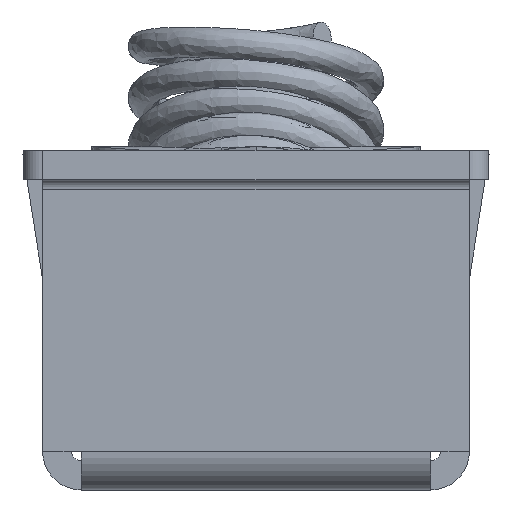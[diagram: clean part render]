
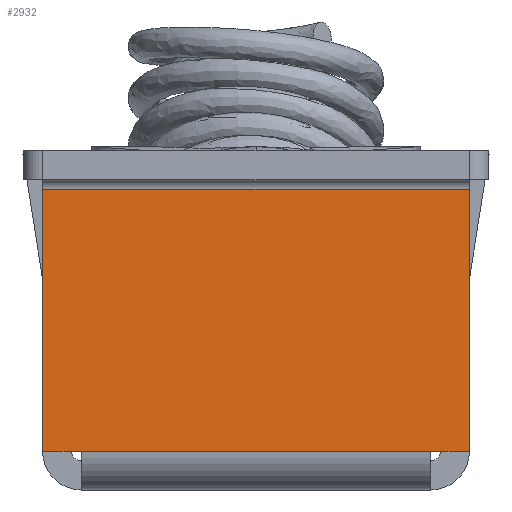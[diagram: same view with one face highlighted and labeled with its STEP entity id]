
A CAD part, left-side view. The second image highlights one B-rep face of the part: STEP entity #2932.
In plain terms, the highlighted planar face has unit normal (-1, 0, 0).
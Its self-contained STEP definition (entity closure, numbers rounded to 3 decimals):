
#1516=CARTESIAN_POINT('',(-129.,11.,2.));
#1517=VERTEX_POINT('',#1516);
#1524=CARTESIAN_POINT('',(-129.,11.,15.5));
#1525=VERTEX_POINT('',#1524);
#1526=CARTESIAN_POINT('',(-129.,11.,2.));
#1527=DIRECTION('',(0.0,0.0,1.0));
#1528=VECTOR('',#1527,13.5);
#1529=LINE('',#1526,#1528);
#1530=EDGE_CURVE('',#1517,#1525,#1529,.T.);
#2353=CARTESIAN_POINT('',(-129.,9.,2.));
#2354=VERTEX_POINT('',#2353);
#2361=CARTESIAN_POINT('',(-129.,11.,2.));
#2362=DIRECTION('',(0.0,-1.0,0.0));
#2363=VECTOR('',#2362,2.);
#2364=LINE('',#2361,#2363);
#2365=EDGE_CURVE('',#1517,#2354,#2364,.T.);
#2436=CARTESIAN_POINT('',(-129.,-9.,2.));
#2437=VERTEX_POINT('',#2436);
#2445=CARTESIAN_POINT('',(-129.,9.,2.));
#2446=DIRECTION('',(0.0,-1.0,0.0));
#2447=VECTOR('',#2446,18.);
#2448=LINE('',#2445,#2447);
#2449=EDGE_CURVE('',#2354,#2437,#2448,.T.);
#2459=CARTESIAN_POINT('',(-129.,-11.,2.));
#2460=VERTEX_POINT('',#2459);
#2469=CARTESIAN_POINT('',(-129.,-9.,2.));
#2470=DIRECTION('',(0.0,-1.0,0.0));
#2471=VECTOR('',#2470,2.);
#2472=LINE('',#2469,#2471);
#2473=EDGE_CURVE('',#2437,#2460,#2472,.T.);
#2585=CARTESIAN_POINT('',(-129.,-11.,15.5));
#2586=VERTEX_POINT('',#2585);
#2594=CARTESIAN_POINT('',(-129.,-11.,15.5));
#2595=DIRECTION('',(0.0,0.0,-1.0));
#2596=VECTOR('',#2595,13.5);
#2597=LINE('',#2594,#2596);
#2598=EDGE_CURVE('',#2586,#2460,#2597,.T.);
#2909=CARTESIAN_POINT('',(-129.,-11.,15.5));
#2910=DIRECTION('',(0.0,1.0,0.0));
#2911=VECTOR('',#2910,22.);
#2912=LINE('',#2909,#2911);
#2913=EDGE_CURVE('',#2586,#1525,#2912,.T.);
#2919=CARTESIAN_POINT('',(-129.,0.0,8.839));
#2920=DIRECTION('',(1.0,0.0,0.0));
#2921=DIRECTION('',(0.0,0.0,-1.0));
#2922=AXIS2_PLACEMENT_3D('',#2919,#2920,#2921);
#2923=PLANE('',#2922);
#2924=ORIENTED_EDGE('',*,*,#2913,.T.);
#2925=ORIENTED_EDGE('',*,*,#1530,.F.);
#2926=ORIENTED_EDGE('',*,*,#2365,.T.);
#2927=ORIENTED_EDGE('',*,*,#2449,.T.);
#2928=ORIENTED_EDGE('',*,*,#2473,.T.);
#2929=ORIENTED_EDGE('',*,*,#2598,.F.);
#2930=EDGE_LOOP('',(#2924,#2925,#2926,#2927,#2928,#2929));
#2931=FACE_OUTER_BOUND('',#2930,.T.);
#2932=ADVANCED_FACE('',(#2931),#2923,.F.);
